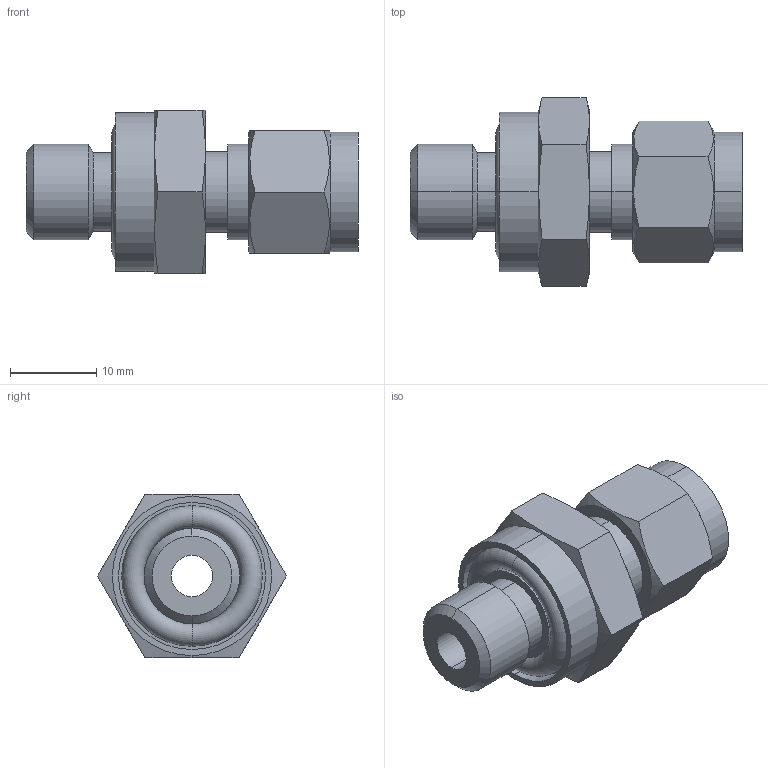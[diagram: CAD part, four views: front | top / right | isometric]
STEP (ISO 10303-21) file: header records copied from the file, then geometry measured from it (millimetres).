
FILE_DESCRIPTION (( 'STEP AP203' ), '1' );
FILE_NAME ('DCO04-04 SS.STEP', '2009-10-08T08:01:41', ( ' ' ), ( '' ), 'SwSTEP 2.0', 'SolidWorks 2008', '' );
FILE_SCHEMA (( 'CONFIG_CONTROL_DESIGN' ));
Length unit declared in the file: millimetre
Products named in the file (1): DCO04-04 SS
Bounding box: 38.6 x 21.94 x 19 mm (x, y, z)
Volume: 5570.2 mm3; surface area: 3765.4 mm2
Topology: 2 solids, 2 shells, 61 faces, 136 edges, 84 vertices
Faces by surface type: plane 21, cylinder 20, cone 16, torus 4
Entity records: 1939 total; most frequent: CARTESIAN_POINT 522, DIRECTION 282, ORIENTED_EDGE 272, EDGE_CURVE 136, AXIS2_PLACEMENT_3D 120, VERTEX_POINT 84, EDGE_LOOP 70, ADVANCED_FACE 61
